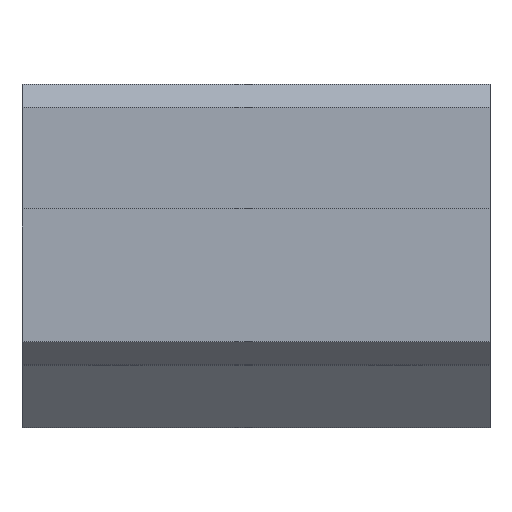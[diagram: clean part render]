
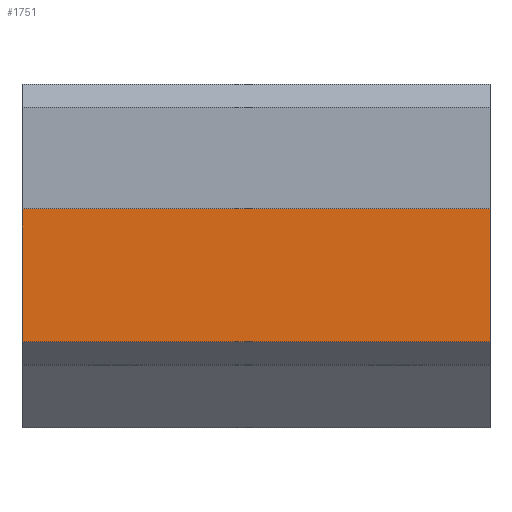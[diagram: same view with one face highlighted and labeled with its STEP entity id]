
A CAD part, top view. The second image highlights one B-rep face of the part: STEP entity #1751.
In plain terms, the highlighted planar face has unit normal (0, 0, 1).
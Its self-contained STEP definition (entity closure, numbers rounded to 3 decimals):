
#230 = DIRECTION ( 'NONE',  ( -1., 0., 0. ) ) ;
#247 = DIRECTION ( 'NONE',  ( 0., -1., 0. ) ) ;
#267 = DIRECTION ( 'NONE',  ( 1., 0., 0. ) ) ;
#275 = EDGE_CURVE ( 'NONE', #922, #2194, #2000, .T. ) ;
#276 = CARTESIAN_POINT ( 'NONE',  ( 0., 14., 15.5 ) ) ;
#516 = EDGE_CURVE ( 'NONE', #1055, #2194, #945, .T. ) ;
#573 = VECTOR ( 'NONE', #230, 1000. ) ;
#624 = EDGE_CURVE ( 'NONE', #2078, #1055, #1375, .T. ) ;
#626 = CARTESIAN_POINT ( 'NONE',  ( 30., 14., 15.5 ) ) ;
#729 = DIRECTION ( 'NONE',  ( 0., -1., 0. ) ) ;
#879 = VECTOR ( 'NONE', #247, 1000. ) ;
#920 = ORIENTED_EDGE ( 'NONE', *, *, #275, .F. ) ;
#922 = VERTEX_POINT ( 'NONE', #2307 ) ;
#944 = VECTOR ( 'NONE', #729, 1000. ) ;
#945 = LINE ( 'NONE', #2069, #944 ) ;
#1055 = VERTEX_POINT ( 'NONE', #276 ) ;
#1156 = AXIS2_PLACEMENT_3D ( 'NONE', #626, #1167, #267 ) ;
#1167 = DIRECTION ( 'NONE',  ( 0., 0., -1. ) ) ;
#1320 = CARTESIAN_POINT ( 'NONE',  ( 0., 5.5, 15.5 ) ) ;
#1375 = LINE ( 'NONE', #1500, #573 ) ;
#1392 = EDGE_CURVE ( 'NONE', #2078, #922, #2270, .T. ) ;
#1397 = VECTOR ( 'NONE', #2198, 1000. ) ;
#1461 = CARTESIAN_POINT ( 'NONE',  ( 30., 5.5, 15.5 ) ) ;
#1500 = CARTESIAN_POINT ( 'NONE',  ( 30., 14., 15.5 ) ) ;
#1711 = FACE_OUTER_BOUND ( 'NONE', #1754, .T. ) ;
#1751 = ADVANCED_FACE ( 'NONE', ( #1711 ), #1891, .F. ) ;
#1754 = EDGE_LOOP ( 'NONE', ( #1968, #920, #1984, #2159 ) ) ;
#1891 = PLANE ( 'NONE',  #1156 ) ;
#1898 = CARTESIAN_POINT ( 'NONE',  ( 30., 14., 15.5 ) ) ;
#1968 = ORIENTED_EDGE ( 'NONE', *, *, #516, .T. ) ;
#1984 = ORIENTED_EDGE ( 'NONE', *, *, #1392, .F. ) ;
#2000 = LINE ( 'NONE', #1461, #1397 ) ;
#2069 = CARTESIAN_POINT ( 'NONE',  ( 0., 14., 15.5 ) ) ;
#2078 = VERTEX_POINT ( 'NONE', #2093 ) ;
#2093 = CARTESIAN_POINT ( 'NONE',  ( 30., 14., 15.5 ) ) ;
#2159 = ORIENTED_EDGE ( 'NONE', *, *, #624, .T. ) ;
#2194 = VERTEX_POINT ( 'NONE', #1320 ) ;
#2198 = DIRECTION ( 'NONE',  ( -1., 0., 0. ) ) ;
#2270 = LINE ( 'NONE', #1898, #879 ) ;
#2307 = CARTESIAN_POINT ( 'NONE',  ( 30., 5.5, 15.5 ) ) ;
